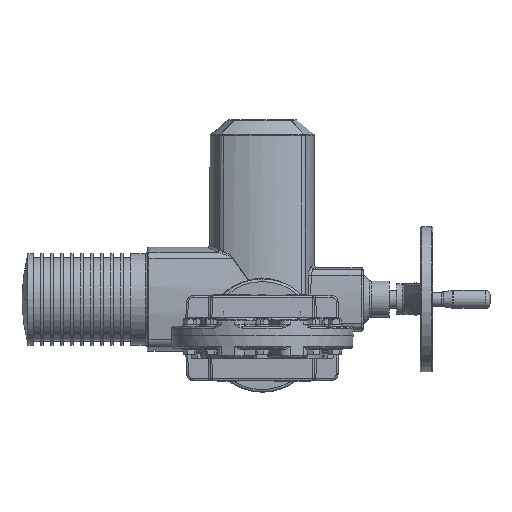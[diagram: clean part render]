
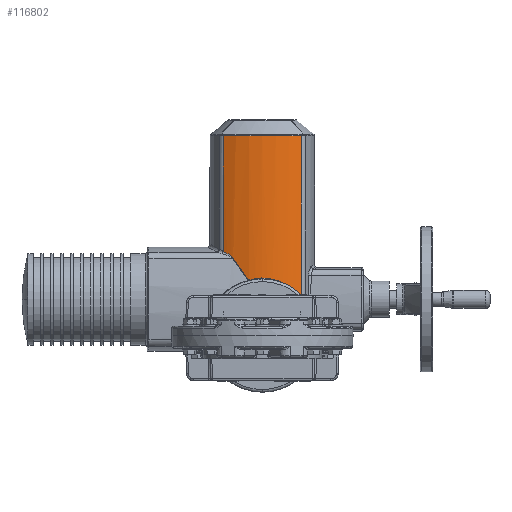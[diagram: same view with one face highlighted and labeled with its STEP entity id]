
A CAD part, front view. The second image highlights one B-rep face of the part: STEP entity #116802.
In plain terms, the highlighted cylindrical face has radius 100 mm (diameter 200 mm), a partial arc.
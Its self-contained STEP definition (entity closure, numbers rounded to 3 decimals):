
#3385 = CARTESIAN_POINT ( 'NONE',  ( -32.064, 383.28, 85.242 ) ) ;
#4122 = CARTESIAN_POINT ( 'NONE',  ( 39.706, 386.219, 46.448 ) ) ;
#5869 = EDGE_CURVE ( 'NONE', #112205, #69983, #71242, .T. ) ;
#6212 = CARTESIAN_POINT ( 'NONE',  ( -43.041, 387.737, 220.035 ) ) ;
#6371 = ORIENTED_EDGE ( 'NONE', *, *, #50974, .T. ) ;
#7934 = ORIENTED_EDGE ( 'NONE', *, *, #56747, .T. ) ;
#9699 = CARTESIAN_POINT ( 'NONE',  ( -5.794, 378.161, 62.927 ) ) ;
#10179 = CARTESIAN_POINT ( 'NONE',  ( 23.143, 380.713, 57.404 ) ) ;
#10935 = ORIENTED_EDGE ( 'NONE', *, *, #55583, .T. ) ;
#14068 = CARTESIAN_POINT ( 'NONE',  ( 36.396, 384.858, 47.439 ) ) ;
#14436 = CARTESIAN_POINT ( 'NONE',  ( -43.041, 387.737, 92.391 ) ) ;
#14554 = VERTEX_POINT ( 'NONE', #85382 ) ;
#15077 = CARTESIAN_POINT ( 'NONE',  ( 37.328, 385.227, 47.213 ) ) ;
#15638 = CARTESIAN_POINT ( 'NONE',  ( 41.482, 387.005, 45.502 ) ) ;
#15771 = CYLINDRICAL_SURFACE ( 'NONE', #132132, 100. ) ;
#17362 = CARTESIAN_POINT ( 'NONE',  ( -20.733, 379.999, 69.042 ) ) ;
#18582 = VECTOR ( 'NONE', #123070, 1000. ) ;
#18628 = EDGE_CURVE ( 'NONE', #14554, #69983, #74007, .T. ) ;
#20675 = CARTESIAN_POINT ( 'NONE',  ( -14.967, 379.126, 60.881 ) ) ;
#21151 = CARTESIAN_POINT ( 'NONE',  ( -2.243, 378.018, 63.226 ) ) ;
#21647 = CARTESIAN_POINT ( 'NONE',  ( 24.662, 381.087, 56.561 ) ) ;
#22511 = DIRECTION ( 'NONE',  ( -1., 0., 0. ) ) ;
#22553 = CARTESIAN_POINT ( 'NONE',  ( 0., 478., 220.035 ) ) ;
#25905 = CARTESIAN_POINT ( 'NONE',  ( -41.052, 386.808, 91.582 ) ) ;
#27112 = CARTESIAN_POINT ( 'NONE',  ( 43.041, 387.737, 44.194 ) ) ;
#29453 = CARTESIAN_POINT ( 'NONE',  ( -14.967, 379.126, 60.881 ) ) ;
#30118 = FACE_OUTER_BOUND ( 'NONE', #44026, .T. ) ;
#31566 = AXIS2_PLACEMENT_3D ( 'NONE', #22553, #102906, #34136 ) ;
#32725 = CARTESIAN_POINT ( 'NONE',  ( 3.673, 378.04, 63.181 ) ) ;
#33247 = CARTESIAN_POINT ( 'NONE',  ( 27.641, 381.874, 54.766 ) ) ;
#34136 = DIRECTION ( 'NONE',  ( 1., 0., 0. ) ) ;
#34456 = VERTEX_POINT ( 'NONE', #128811 ) ;
#37456 = CARTESIAN_POINT ( 'NONE',  ( -38.126, 385.548, 90.142 ) ) ;
#37755 = B_SPLINE_CURVE_WITH_KNOTS ( 'NONE', 3,
 ( #14068, #49097, #15077, #95396 ),
 .UNSPECIFIED., .F., .F.,
 ( 4, 4 ),
 ( 0.008, 0.009 ),
 .UNSPECIFIED. ) ;
#38189 = CARTESIAN_POINT ( 'NONE',  ( 38.283, 385.617, 46.974 ) ) ;
#38578 = ORIENTED_EDGE ( 'NONE', *, *, #128476, .T. ) ;
#39849 = VECTOR ( 'NONE', #115467, 1000. ) ;
#40449 = CARTESIAN_POINT ( 'NONE',  ( -32.064, 383.28, 85.242 ) ) ;
#44026 = EDGE_LOOP ( 'NONE', ( #7934, #38578, #6371, #10935, #98035, #44411, #120417, #100133 ) ) ;
#44195 = CARTESIAN_POINT ( 'NONE',  ( 8.354, 378.343, 62.546 ) ) ;
#44255 = CIRCLE ( 'NONE', #31566, 100. ) ;
#44411 = ORIENTED_EDGE ( 'NONE', *, *, #5869, .T. ) ;
#44680 = CARTESIAN_POINT ( 'NONE',  ( 33.093, 383.616, 50.604 ) ) ;
#46593 = CARTESIAN_POINT ( 'NONE',  ( 43.041, 387.737, 237.75 ) ) ;
#47699 = VERTEX_POINT ( 'NONE', #146743 ) ;
#48954 = CARTESIAN_POINT ( 'NONE',  ( -35.292, 384.43, 88.385 ) ) ;
#49072 = LINE ( 'NONE', #76930, #18582 ) ;
#49097 = CARTESIAN_POINT ( 'NONE',  ( 36.862, 385.041, 47.327 ) ) ;
#50974 = EDGE_CURVE ( 'NONE', #140410, #105997, #80394, .T. ) ;
#55583 = EDGE_CURVE ( 'NONE', #105997, #47699, #64708, .T. ) ;
#55737 = CARTESIAN_POINT ( 'NONE',  ( 11.825, 378.695, 61.802 ) ) ;
#56271 = CARTESIAN_POINT ( 'NONE',  ( 36.396, 384.858, 47.439 ) ) ;
#56747 = EDGE_CURVE ( 'NONE', #144936, #34456, #49072, .T. ) ;
#60512 = CARTESIAN_POINT ( 'NONE',  ( -33.565, 383.8, 86.957 ) ) ;
#61255 = CARTESIAN_POINT ( 'NONE',  ( 38.764, 385.818, 46.82 ) ) ;
#64708 = B_SPLINE_CURVE_WITH_KNOTS ( 'NONE', 3,
 ( #20675, #112565, #147167, #78430, #9699, #89979, #21151, #101523, #32725, #113050, #44195, #124521, #55737, #136126, #67353, #147672, #78917, #10179, #90498, #21647, #102000, #33247, #113570, #44680, #125024, #56271 ),
 .UNSPECIFIED., .F., .F.,
 ( 4, 2, 2, 2, 2, 2, 2, 2, 2, 2, 2, 2, 4 ),
 ( 0., 0.007, 0.011, 0.014, 0.021, 0.025, 0.028, 0.035, 0.039, 0.041, 0.042, 0.05, 0.057 ),
 .UNSPECIFIED. ) ;
#66290 = CARTESIAN_POINT ( 'NONE',  ( 43.041, 387.737, 44.194 ) ) ;
#67353 = CARTESIAN_POINT ( 'NONE',  ( 17.386, 379.499, 60.082 ) ) ;
#69983 = VERTEX_POINT ( 'NONE', #66290 ) ;
#71242 = B_SPLINE_CURVE_WITH_KNOTS ( 'NONE', 3,
 ( #141622, #38189, #61255, #4122, #84428, #15638, #96013, #27112 ),
 .UNSPECIFIED., .F., .F.,
 ( 4, 2, 2, 4 ),
 ( 0., 0.002, 0.003, 0.007 ),
 .UNSPECIFIED. ) ;
#72099 = CARTESIAN_POINT ( 'NONE',  ( -32.398, 383.393, 85.723 ) ) ;
#74007 = LINE ( 'NONE', #46593, #39849 ) ;
#76930 = CARTESIAN_POINT ( 'NONE',  ( -43.041, 387.737, 237.75 ) ) ;
#78430 = CARTESIAN_POINT ( 'NONE',  ( -6.964, 378.236, 62.77 ) ) ;
#78917 = CARTESIAN_POINT ( 'NONE',  ( 21.604, 380.356, 58.202 ) ) ;
#80394 = B_SPLINE_CURVE_WITH_KNOTS ( 'NONE', 3,
 ( #40449, #86196, #17362, #120755 ),
 .UNSPECIFIED., .F., .F.,
 ( 4, 4 ),
 ( 0., 0.03 ),
 .UNSPECIFIED. ) ;
#84428 = CARTESIAN_POINT ( 'NONE',  ( 40.164, 386.419, 46.232 ) ) ;
#85382 = CARTESIAN_POINT ( 'NONE',  ( 43.041, 387.737, 220.035 ) ) ;
#86196 = CARTESIAN_POINT ( 'NONE',  ( -26.44, 381.376, 77.158 ) ) ;
#89979 = CARTESIAN_POINT ( 'NONE',  ( -3.436, 378.052, 63.155 ) ) ;
#90498 = CARTESIAN_POINT ( 'NONE',  ( 23.652, 380.836, 57.129 ) ) ;
#94763 = CARTESIAN_POINT ( 'NONE',  ( -42.042, 387.26, 92.005 ) ) ;
#95396 = CARTESIAN_POINT ( 'NONE',  ( 37.791, 385.416, 47.097 ) ) ;
#96013 = CARTESIAN_POINT ( 'NONE',  ( 42.296, 387.381, 44.907 ) ) ;
#98035 = ORIENTED_EDGE ( 'NONE', *, *, #137107, .T. ) ;
#99877 = CARTESIAN_POINT ( 'NONE',  ( 37.791, 385.416, 47.097 ) ) ;
#100133 = ORIENTED_EDGE ( 'NONE', *, *, #147014, .T. ) ;
#101523 = CARTESIAN_POINT ( 'NONE',  ( 1.316, 377.981, 63.304 ) ) ;
#102000 = CARTESIAN_POINT ( 'NONE',  ( 25.164, 381.217, 56.268 ) ) ;
#102906 = DIRECTION ( 'NONE',  ( 0., 0., -1. ) ) ;
#105997 = VERTEX_POINT ( 'NONE', #29453 ) ;
#106254 = CARTESIAN_POINT ( 'NONE',  ( -39.094, 385.952, 90.65 ) ) ;
#112205 = VERTEX_POINT ( 'NONE', #99877 ) ;
#112565 = CARTESIAN_POINT ( 'NONE',  ( -12.724, 378.787, 61.609 ) ) ;
#113050 = CARTESIAN_POINT ( 'NONE',  ( 7.186, 378.252, 62.737 ) ) ;
#113570 = CARTESIAN_POINT ( 'NONE',  ( 29.519, 382.438, 53.45 ) ) ;
#113939 = CARTESIAN_POINT ( 'NONE',  ( 0., 478., 237.75 ) ) ;
#115467 = DIRECTION ( 'NONE',  ( 0., 0., -1. ) ) ;
#116802 = ADVANCED_FACE ( 'NONE', ( #30118 ), #15771, .T. ) ;
#117788 = CARTESIAN_POINT ( 'NONE',  ( -36.228, 384.787, 89.011 ) ) ;
#120417 = ORIENTED_EDGE ( 'NONE', *, *, #18628, .F. ) ;
#120755 = CARTESIAN_POINT ( 'NONE',  ( -14.967, 379.126, 60.881 ) ) ;
#122311 = CARTESIAN_POINT ( 'NONE',  ( -32.064, 383.28, 85.242 ) ) ;
#123070 = DIRECTION ( 'NONE',  ( 0., 0., -1. ) ) ;
#124521 = CARTESIAN_POINT ( 'NONE',  ( 10.68, 378.565, 62.077 ) ) ;
#125024 = CARTESIAN_POINT ( 'NONE',  ( 34.788, 384.23, 49.074 ) ) ;
#125393 = DIRECTION ( 'NONE',  ( 0., 0., -1. ) ) ;
#128476 = EDGE_CURVE ( 'NONE', #34456, #140410, #139152, .T. ) ;
#128811 = CARTESIAN_POINT ( 'NONE',  ( -43.041, 387.737, 92.391 ) ) ;
#129332 = CARTESIAN_POINT ( 'NONE',  ( -33.985, 383.951, 87.329 ) ) ;
#132132 = AXIS2_PLACEMENT_3D ( 'NONE', #113939, #125393, #22511 ) ;
#136126 = CARTESIAN_POINT ( 'NONE',  ( 15.204, 379.137, 60.862 ) ) ;
#137107 = EDGE_CURVE ( 'NONE', #47699, #112205, #37755, .T. ) ;
#139152 = B_SPLINE_CURVE_WITH_KNOTS ( 'NONE', 3,
 ( #14436, #94763, #25905, #106254, #37456, #117788, #48954, #129332, #60512, #140905, #72099, #3385 ),
 .UNSPECIFIED., .F., .F.,
 ( 4, 2, 2, 2, 2, 4 ),
 ( 0., 0.003, 0.007, 0.01, 0.012, 0.014 ),
 .UNSPECIFIED. ) ;
#140410 = VERTEX_POINT ( 'NONE', #122311 ) ;
#140905 = CARTESIAN_POINT ( 'NONE',  ( -32.772, 383.521, 86.153 ) ) ;
#141622 = CARTESIAN_POINT ( 'NONE',  ( 37.791, 385.416, 47.097 ) ) ;
#144936 = VERTEX_POINT ( 'NONE', #6212 ) ;
#146743 = CARTESIAN_POINT ( 'NONE',  ( 36.396, 384.858, 47.439 ) ) ;
#147014 = EDGE_CURVE ( 'NONE', #14554, #144936, #44255, .T. ) ;
#147167 = CARTESIAN_POINT ( 'NONE',  ( -10.443, 378.52, 62.174 ) ) ;
#147672 = CARTESIAN_POINT ( 'NONE',  ( 20.562, 380.131, 58.699 ) ) ;
